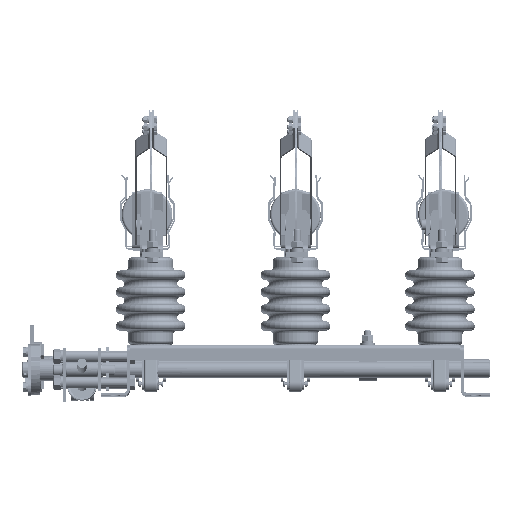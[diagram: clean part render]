
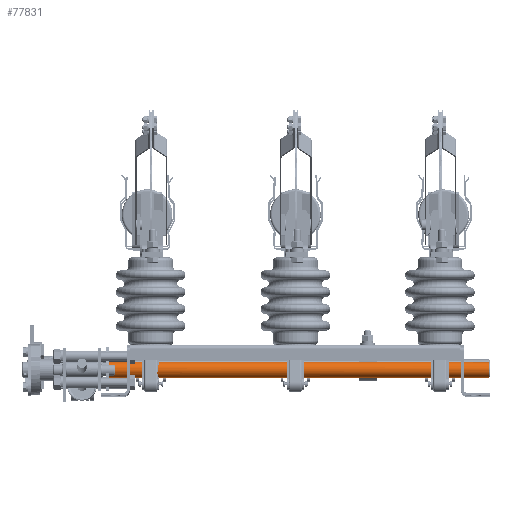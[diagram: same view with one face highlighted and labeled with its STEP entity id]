
A CAD part, top view. The second image highlights one B-rep face of the part: STEP entity #77831.
In plain terms, the highlighted cylindrical face has radius 11 mm (diameter 22 mm), a full revolution.
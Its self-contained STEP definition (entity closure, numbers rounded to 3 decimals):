
#4461 = DIRECTION ( 'NONE',  ( 0., 0.576, -0.817 ) ) ;
#16812 = AXIS2_PLACEMENT_3D ( 'NONE', #65705, #184260, #82771 ) ;
#21405 = CARTESIAN_POINT ( 'NONE',  ( -261.378, 36.004, 296.018 ) ) ;
#29991 = ORIENTED_EDGE ( 'NONE', *, *, #204307, .F. ) ;
#49302 = EDGE_LOOP ( 'NONE', ( #56778 ) ) ;
#51949 = CIRCLE ( 'NONE', #67422, 11. ) ;
#56778 = ORIENTED_EDGE ( 'NONE', *, *, #87984, .F. ) ;
#61821 = DIRECTION ( 'NONE',  ( 1., 0., 0. ) ) ;
#63466 = AXIS2_PLACEMENT_3D ( 'NONE', #21405, #174016, #4461 ) ;
#65705 = CARTESIAN_POINT ( 'NONE',  ( -258.378, 36.004, 296.018 ) ) ;
#67422 = AXIS2_PLACEMENT_3D ( 'NONE', #82466, #200943, #99500 ) ;
#70331 = VERTEX_POINT ( 'NONE', #189040 ) ;
#72323 = CIRCLE ( 'NONE', #16812, 11. ) ;
#77831 = ADVANCED_FACE ( 'NONE', ( #81902, #132367 ), #166761, .T. ) ;
#79112 = AXIS2_PLACEMENT_3D ( 'NONE', #163374, #61821, #180395 ) ;
#81902 = FACE_OUTER_BOUND ( 'NONE', #49302, .T. ) ;
#82466 = CARTESIAN_POINT ( 'NONE',  ( 267.622, 36.004, 296.018 ) ) ;
#82771 = DIRECTION ( 'NONE',  ( 0., 0., 1. ) ) ;
#87984 = EDGE_CURVE ( 'NONE', #156006, #156006, #72323, .T. ) ;
#96319 = CIRCLE ( 'NONE', #79112, 11. ) ;
#99500 = DIRECTION ( 'NONE',  ( 0., -0.576, 0.817 ) ) ;
#101839 = CARTESIAN_POINT ( 'NONE',  ( -258.378, 36.004, 307.018 ) ) ;
#102256 = CARTESIAN_POINT ( 'NONE',  ( 267.622, 42.34, 287.026 ) ) ;
#132367 = FACE_OUTER_BOUND ( 'NONE', #206176, .T. ) ;
#156006 = VERTEX_POINT ( 'NONE', #101839 ) ;
#163374 = CARTESIAN_POINT ( 'NONE',  ( 267.622, 36.004, 296.018 ) ) ;
#166761 = CYLINDRICAL_SURFACE ( 'NONE', #63466, 11. ) ;
#170779 = ORIENTED_EDGE ( 'NONE', *, *, #201944, .F. ) ;
#174016 = DIRECTION ( 'NONE',  ( 1., 0., 0. ) ) ;
#180395 = DIRECTION ( 'NONE',  ( 0., 0.576, -0.817 ) ) ;
#184260 = DIRECTION ( 'NONE',  ( -1., 0., 0. ) ) ;
#189040 = CARTESIAN_POINT ( 'NONE',  ( 267.622, 29.668, 305.01 ) ) ;
#200943 = DIRECTION ( 'NONE',  ( 1., 0., 0. ) ) ;
#201944 = EDGE_CURVE ( 'NONE', #70331, #213505, #51949, .T. ) ;
#204307 = EDGE_CURVE ( 'NONE', #213505, #70331, #96319, .T. ) ;
#206176 = EDGE_LOOP ( 'NONE', ( #170779, #29991 ) ) ;
#213505 = VERTEX_POINT ( 'NONE', #102256 ) ;
